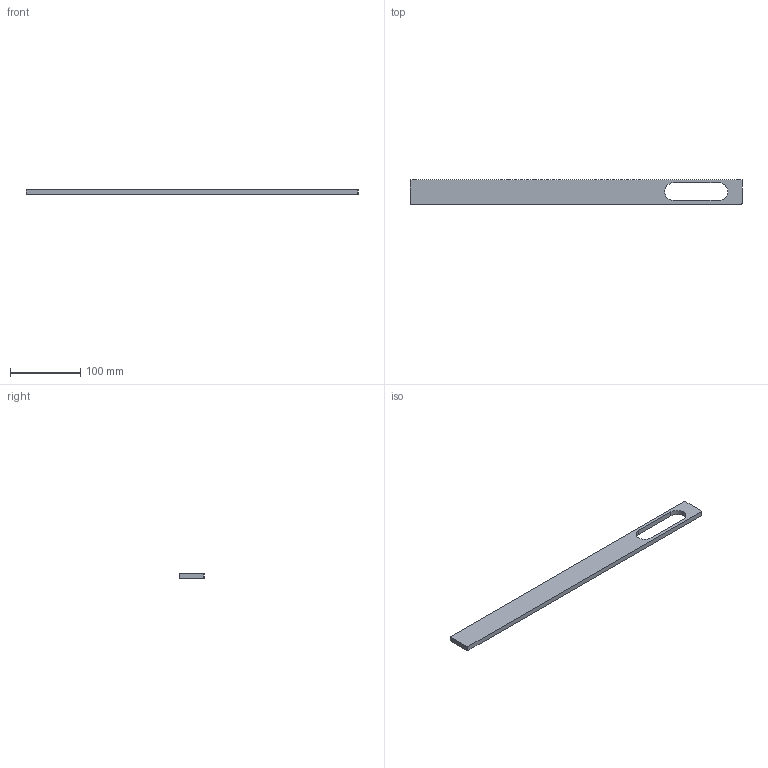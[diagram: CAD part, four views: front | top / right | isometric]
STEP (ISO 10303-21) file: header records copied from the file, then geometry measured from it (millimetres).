
FILE_DESCRIPTION( ( '' ), '1' );
FILE_NAME( 'D:/1.AUTOCAD EXPORT/Group 10/sheet_10_1/DONE/Sachin_1/115008.stp', '2013-10-29T09:47:39', ( '' ), ( '' ), ' ', ' ', ' ' );
FILE_SCHEMA( ( 'CONFIG_CONTROL_DESIGN' ) );
Length unit declared in the file: millimetre
Products named in the file (1): 1
Bounding box: 472 x 35 x 7 mm (x, y, z)
Volume: 100624.8 mm3; surface area: 37560.2 mm2
Topology: 1 solids, 1 shells, 18 faces, 42 edges, 28 vertices
Faces by surface type: plane 10, cylinder 8
Entity records: 570 total; most frequent: DIRECTION 96, CARTESIAN_POINT 89, ORIENTED_EDGE 84, EDGE_CURVE 42, AXIS2_PLACEMENT_3D 35, VERTEX_POINT 28, LINE 26, VECTOR 26
